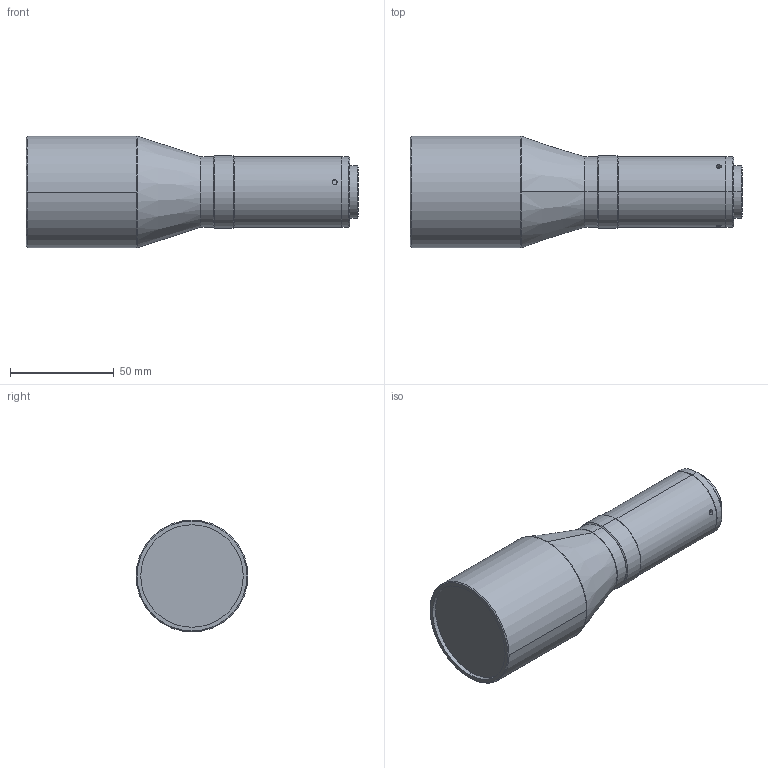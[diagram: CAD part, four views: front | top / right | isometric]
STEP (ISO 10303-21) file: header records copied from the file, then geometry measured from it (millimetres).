
FILE_DESCRIPTION (( 'STEP AP203' ), '1' );
FILE_NAME ('DTCM110-36.STEP', '2019-11-13T07:43:51', ( 'Windows 蚚誧' ), ( '' ), 'SwSTEP 2.0', 'SolidWorks 2017', '' );
FILE_SCHEMA (( 'CONFIG_CONTROL_DESIGN' ));
Length unit declared in the file: millimetre
Products named in the file (1): DTCM110-36
Bounding box: 160.38 x 54 x 54 mm (x, y, z)
Volume: 233032.7 mm3; surface area: 25629.8 mm2
Topology: 1 solids, 1 shells, 54 faces, 116 edges, 71 vertices
Faces by surface type: cylinder 22, cone 21, plane 7, bspline 4
Entity records: 1805 total; most frequent: CARTESIAN_POINT 564, DIRECTION 258, ORIENTED_EDGE 228, EDGE_CURVE 114, AXIS2_PLACEMENT_3D 109, VERTEX_POINT 71, EDGE_LOOP 63, CIRCLE 58
